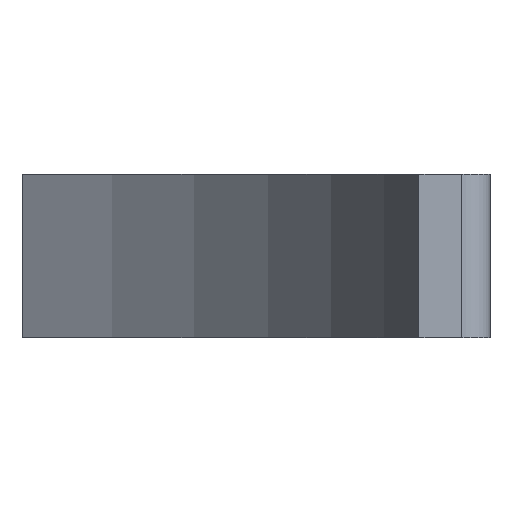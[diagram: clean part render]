
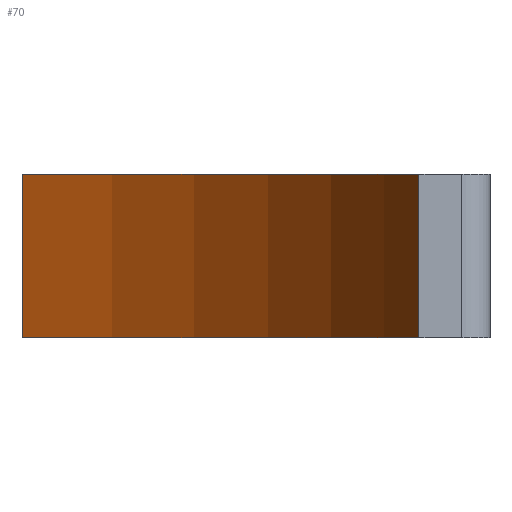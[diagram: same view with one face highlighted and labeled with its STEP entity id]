
A CAD part, left-side view. The second image highlights one B-rep face of the part: STEP entity #70.
In plain terms, the highlighted cylindrical face has radius 260.35 mm (diameter 520.7 mm), a partial arc.
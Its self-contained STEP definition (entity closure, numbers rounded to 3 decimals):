
#2 = LINE ( 'NONE', #314, #226 ) ;
#7 = CARTESIAN_POINT ( 'NONE',  ( 24.111, -259.231, 50. ) ) ;
#8 = VERTEX_POINT ( 'NONE', #164 ) ;
#11 = ORIENTED_EDGE ( 'NONE', *, *, #281, .F. ) ;
#16 = DIRECTION ( 'NONE',  ( -1., 0., 0. ) ) ;
#40 = CARTESIAN_POINT ( 'NONE',  ( 229.875, -122.227, 50. ) ) ;
#43 = AXIS2_PLACEMENT_3D ( 'NONE', #87, #224, #16 ) ;
#45 = EDGE_CURVE ( 'NONE', #8, #53, #319, .T. ) ;
#53 = VERTEX_POINT ( 'NONE', #7 ) ;
#70 = ADVANCED_FACE ( 'NONE', ( #246 ), #116, .F. ) ;
#73 = CIRCLE ( 'NONE', #99, 260.35 ) ;
#77 = DIRECTION ( 'NONE',  ( 1., 0., 0. ) ) ;
#79 = VERTEX_POINT ( 'NONE', #333 ) ;
#87 = CARTESIAN_POINT ( 'NONE',  ( 0., 0., 50. ) ) ;
#99 = AXIS2_PLACEMENT_3D ( 'NONE', #270, #197, #147 ) ;
#116 = CYLINDRICAL_SURFACE ( 'NONE', #43, 260.35 ) ;
#133 = ORIENTED_EDGE ( 'NONE', *, *, #195, .T. ) ;
#140 = DIRECTION ( 'NONE',  ( 0., 0., -1. ) ) ;
#147 = DIRECTION ( 'NONE',  ( 1., 0., 0. ) ) ;
#149 = VECTOR ( 'NONE', #300, 1000. ) ;
#154 = EDGE_CURVE ( 'NONE', #79, #245, #73, .T. ) ;
#156 = DIRECTION ( 'NONE',  ( 0., 0., -1. ) ) ;
#164 = CARTESIAN_POINT ( 'NONE',  ( 229.875, -122.227, 50. ) ) ;
#195 = EDGE_CURVE ( 'NONE', #8, #79, #275, .T. ) ;
#197 = DIRECTION ( 'NONE',  ( 0., 0., -1. ) ) ;
#198 = CARTESIAN_POINT ( 'NONE',  ( 0., 0., 50. ) ) ;
#224 = DIRECTION ( 'NONE',  ( 0., 0., -1. ) ) ;
#226 = VECTOR ( 'NONE', #156, 1000. ) ;
#245 = VERTEX_POINT ( 'NONE', #283 ) ;
#246 = FACE_OUTER_BOUND ( 'NONE', #293, .T. ) ;
#259 = AXIS2_PLACEMENT_3D ( 'NONE', #198, #140, #77 ) ;
#264 = ORIENTED_EDGE ( 'NONE', *, *, #45, .F. ) ;
#270 = CARTESIAN_POINT ( 'NONE',  ( 0., 0., 0. ) ) ;
#275 = LINE ( 'NONE', #40, #149 ) ;
#281 = EDGE_CURVE ( 'NONE', #53, #245, #2, .T. ) ;
#283 = CARTESIAN_POINT ( 'NONE',  ( 24.111, -259.231, 0. ) ) ;
#287 = ORIENTED_EDGE ( 'NONE', *, *, #154, .T. ) ;
#293 = EDGE_LOOP ( 'NONE', ( #287, #11, #264, #133 ) ) ;
#300 = DIRECTION ( 'NONE',  ( 0., 0., -1. ) ) ;
#314 = CARTESIAN_POINT ( 'NONE',  ( 24.111, -259.231, 50. ) ) ;
#319 = CIRCLE ( 'NONE', #259, 260.35 ) ;
#333 = CARTESIAN_POINT ( 'NONE',  ( 229.875, -122.227, 0. ) ) ;
